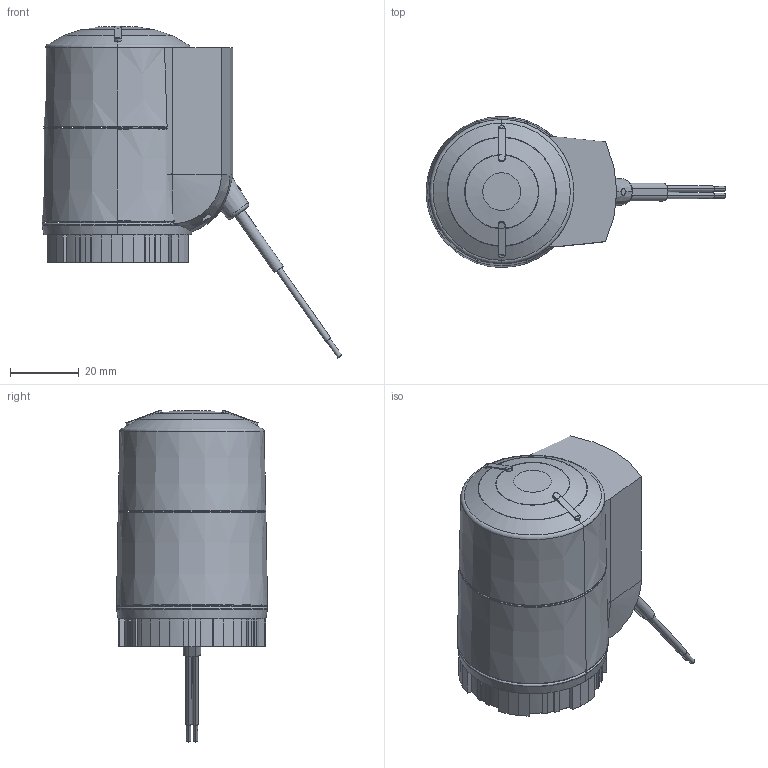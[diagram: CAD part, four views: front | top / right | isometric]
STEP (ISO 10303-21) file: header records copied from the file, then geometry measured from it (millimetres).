
FILE_DESCRIPTION(('no description'),'unknown implementation level');
FILE_NAME('STA-SIEMENS_3D.stp',' ',('pit-cup GmbH'),('ccLab - KiM Gmbh - www.kimweb.de'),'unknown preprocess','ACIS','unknown authorization');
FILE_SCHEMA(('automotive_design'));
Length unit declared in the file: millimetre
Products named in the file (9): 1; 2; 3; 4; 5; 6; 7; 8; 9
Bounding box: 87.28 x 44 x 96.69 mm (x, y, z)
Volume: 121881.8 mm3; surface area: 28644.7 mm2
Topology: 9 solids, 9 shells, 314 faces, 828 edges, 532 vertices
Faces by surface type: plane 186, cone 50, cylinder 44, torus 34
Entity records: 19972 total; most frequent: CARTESIAN_POINT 2774, STYLED_ITEM 1679, PRESENTATION_STYLE_ASSIGNMENT 1679, COLOUR_RGB 1679, ORIENTED_EDGE 1648, DIRECTION 1621, EDGE_CURVE 824, CURVE_STYLE 824
